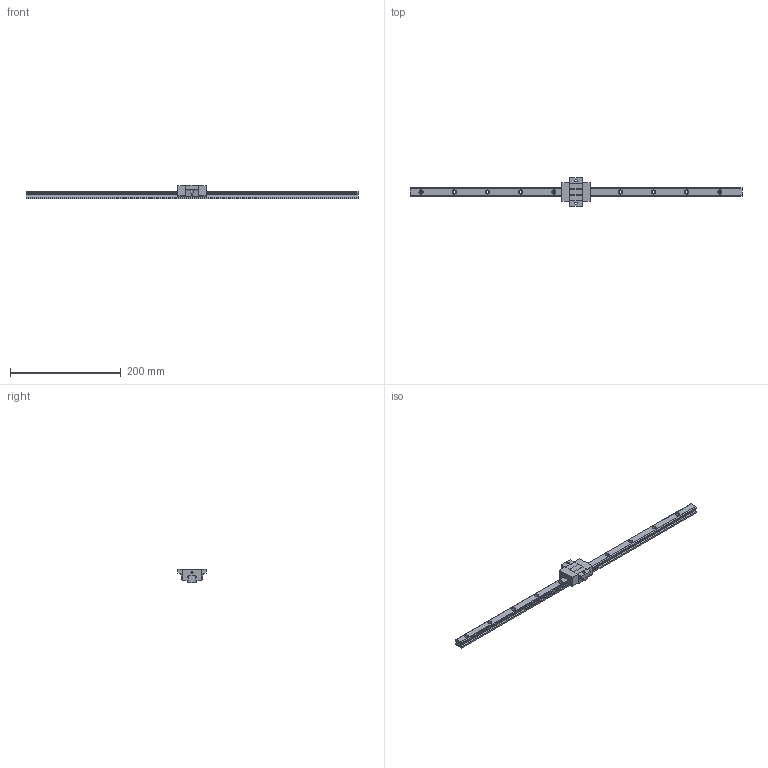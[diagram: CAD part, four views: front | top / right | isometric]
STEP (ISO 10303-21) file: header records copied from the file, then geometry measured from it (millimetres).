
FILE_DESCRIPTION (( 'STEP AP203' ), '1' );
FILE_NAME ('TRS15FS-WW-§ï.STEP', '2023-08-31T02:57:35', ( '' ), ( '' ), 'SwSTEP 2.0', 'SolidWorks 2022', '' );
FILE_SCHEMA (( 'CONFIG_CONTROL_DESIGN' ));
Length unit declared in the file: millimetre
Products named in the file (1): TRS15FS-WW-改
Bounding box: 600 x 52 x 24 mm (x, y, z)
Volume: 133098 mm3; surface area: 44311.3 mm2
Topology: 1 solids, 1 shells, 197 faces, 536 edges, 348 vertices
Faces by surface type: cylinder 100, plane 93, sphere 4
Entity records: 6546 total; most frequent: CARTESIAN_POINT 1313, DIRECTION 1106, ORIENTED_EDGE 1064, EDGE_CURVE 532, AXIS2_PLACEMENT_3D 390, VERTEX_POINT 348, VECTOR 326, LINE 326
